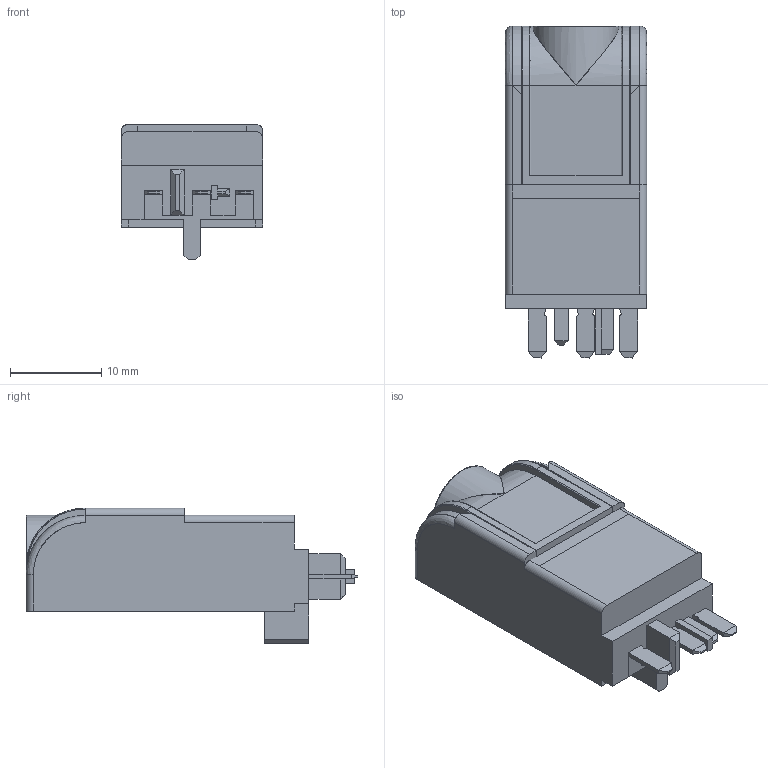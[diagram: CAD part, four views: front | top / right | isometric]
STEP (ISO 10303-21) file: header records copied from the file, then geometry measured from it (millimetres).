
FILE_DESCRIPTION(('STEP AP214'),'2;1');
FILE_NAME('compl 8630---skin.stp','2010-05-03T10:00:42',(''),(''),'2007.1.106','THINKDESIGN','');
FILE_SCHEMA(('AUTOMOTIVE_DESIGN'));
Length unit declared in the file: millimetre
Products named in the file (1): None
Bounding box: 15.5 x 36.4 x 14.9 mm (x, y, z)
Surface area: 3531.1 mm2 (no closed solid volume)
Topology: 0 solids, 0 shells, 225 faces, 1391 edges, 1387 vertices
Faces by surface type: plane 155, bspline 38, cylinder 32
Full cylindrical faces by diameter (mm): 2.8 x1, 5.8 x1
Entity records: 14794 total; most frequent: CARTESIAN_POINT 5419, DIRECTION 1563, COMPOSITE_CURVE_SEGMENT 1387, TRIMMED_CURVE 1106, VECTOR 1025, LINE 1025, AXIS2_PLACEMENT_3D 269, STYLED_ITEM 227
